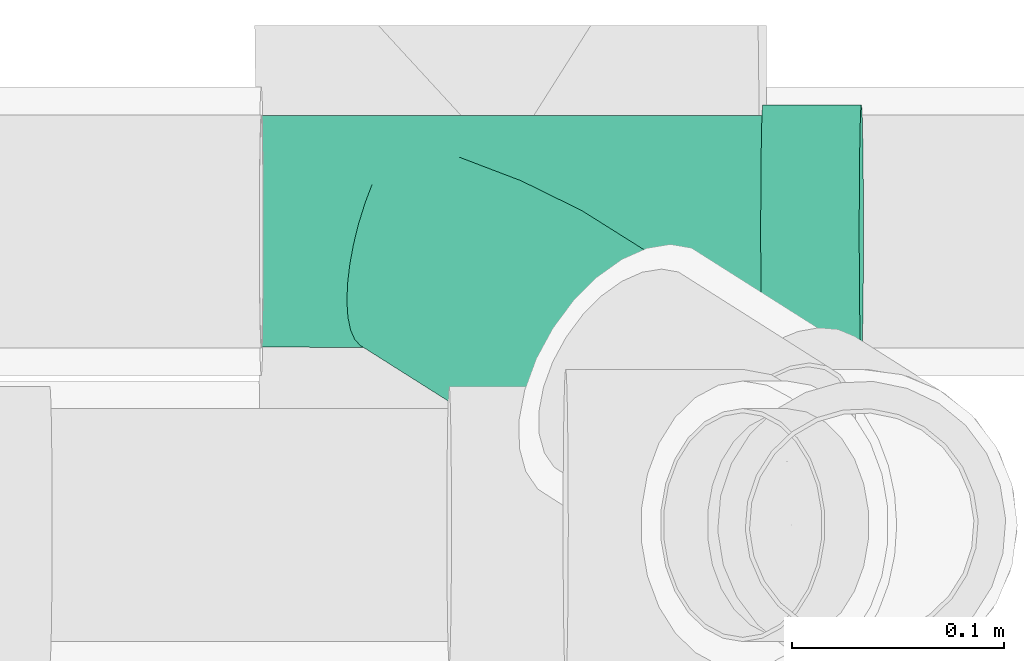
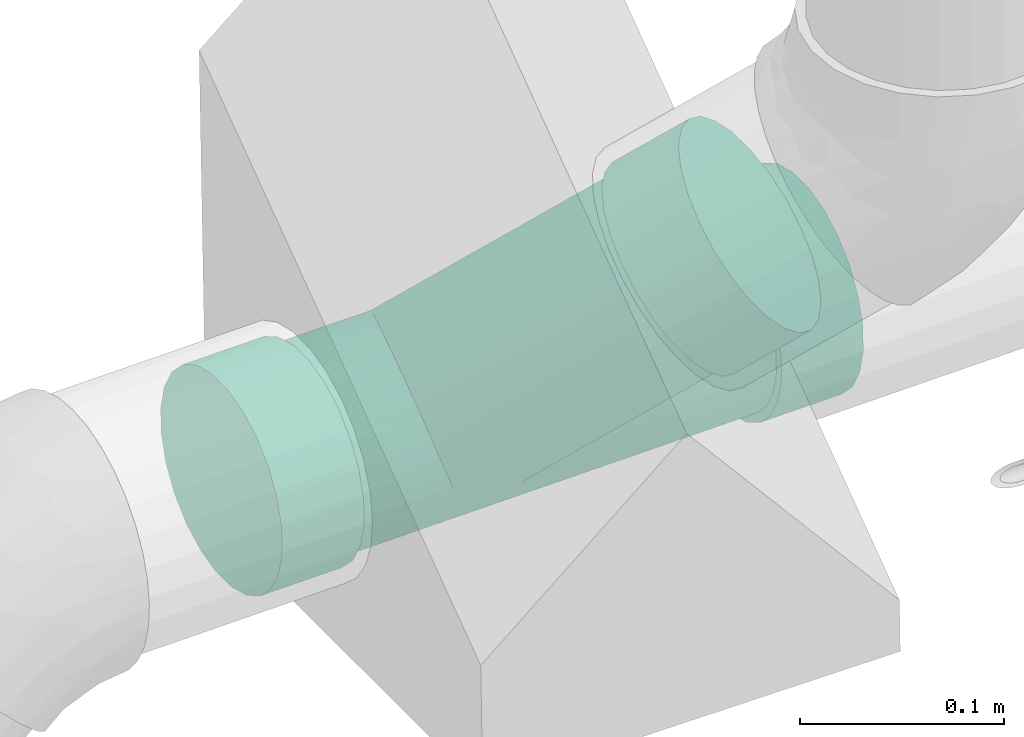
# One storey, part 114 of 156: 1 flow fitting.
"""IFC2X3 building model written with IfcOpenShell, lengths in millimetres."""

from ifc_helpers import new_model, entity, si_unit, converted_unit, derived_unit, direction, frame, origin_with_axes, place, context, subcontext, project, spatial, open_shell, surface_model, source, transform, mapped, type_object, element, save


model = new_model("IFC2X3")

# Units and contexts
model_context = context("Model", 3, precision=0.01, world=frame((0.0, 4.29681676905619e-09, 0.0)), true_north=direction((4.01073788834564e-13, 1.0)))
plan_context = context("Plan", 3, precision=0.01, world=frame((0.0, 4.29681676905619e-09, 0.0)), true_north=direction((4.01073788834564e-13, 1.0)))
body_context = subcontext(model_context, "Body", "Model", "MODEL_VIEW")
ifc_project = project(units=[converted_unit("PLANEANGLEUNIT", "DEGREE", entity("IfcPositiveLengthMeasure", 0.0174532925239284), si_unit("PLANEANGLEUNIT", "RADIAN"), dimensions=[0, 0, 0, 0, 0, 0, 0]), si_unit("AREAUNIT", "SQUARE_METRE"), si_unit("LENGTHUNIT", "METRE", prefix="MILLI"), si_unit("MASSUNIT", "GRAM", prefix="KILO"), si_unit("POWERUNIT", "WATT"), si_unit("PRESSUREUNIT", "PASCAL", prefix="KILO"), si_unit("FORCEUNIT", "NEWTON", prefix="KILO"), si_unit("ELECTRICVOLTAGEUNIT", "VOLT"), si_unit("ELECTRICCURRENTUNIT", "AMPERE"), si_unit("THERMODYNAMICTEMPERATUREUNIT", "DEGREE_CELSIUS"), si_unit("TIMEUNIT", "SECOND"), si_unit("VOLUMEUNIT", "CUBIC_METRE"), derived_unit("LINEARVELOCITYUNIT", [(si_unit("LENGTHUNIT", "METRE"), 1), (si_unit("TIMEUNIT", "SECOND"), -1)]), derived_unit("VOLUMETRICFLOWRATEUNIT", [(si_unit("VOLUMEUNIT", "CUBIC_METRE"), 1), (si_unit("TIMEUNIT", "SECOND"), -1)]), derived_unit("THERMALTRANSMITTANCEUNIT", [(si_unit("POWERUNIT", "WATT"), 1), (si_unit("THERMODYNAMICTEMPERATUREUNIT", "KELVIN"), -1), (si_unit("AREAUNIT", "SQUARE_METRE"), -1)]), derived_unit("SOUNDPRESSUREUNIT", [(si_unit("PRESSUREUNIT", "PASCAL"), 1)])], contexts=[model_context, plan_context])

# Site, building, storey
site_placement = place(None, frame((0.0, -4.29681676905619e-09, 0.0), z_axis=(0.0, 0.0, 1.0), x_axis=(1.0, 0.0, 0.0)))
site = spatial("IfcSite", under=ifc_project, at=site_placement, CompositionType="ELEMENT")
building_placement = place(site_placement, frame((0.0, 4.29681676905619e-09, 0.0), z_axis=(0.0, 0.0, 1.0), x_axis=(1.0, 0.0, 0.0)))
building = spatial("IfcBuilding", under=site, at=building_placement, Name="mc-building", CompositionType="ELEMENT")
storey_placement = place(building_placement, frame((0.0, 0.0, 205200.0), z_axis=(0.0, 0.0, 1.0), x_axis=(1.0, 0.0, 0.0)))
storey = spatial("IfcBuildingStorey", under=building, at=storey_placement, Name="Nivå D + 1,2 m", CompositionType="ELEMENT", Elevation=205200.0)

# Flow fitting
pipe_fitting_type = type_object("IfcPipeFittingType", Name="magi_sewer_tee_wye_NOR", PredefinedType="JUNCTION")
shared_shape = source(origin_with_axes(), body_context, "Body", "SurfaceModel", [
    surface_model("IfcShellBasedSurfaceModel", [(218.8426, 30.0, -51.96152), (218.8426, -42.42641, -42.42641), (218.8426, 15.52914, -57.95555), (218.8426, 51.96152, -30.0), (218.8426, 42.42641, -42.42641), (218.8426, 57.95555, -15.52914), (218.8426, 60.0, 0.0), (218.8426, 0.0, -60.0), (218.8426, -30.0, -51.96152), (218.8426, -15.52914, -57.95555), (218.8426, 57.95555, 15.52914), (218.8426, -51.96152, -30.0), (218.8426, -60.0, 0.0), (218.8426, -57.95555, -15.52914), (218.8426, 51.96152, 30.0), (218.8426, 42.42641, 42.42641), (218.8426, 15.52914, 57.95555), (218.8426, 0.0, 60.0), (218.8426, 30.0, 51.96152), (218.8426, -51.96152, 30.0), (218.8426, -57.95555, 15.52914), (218.8426, -30.0, 51.96152), (218.8426, -42.42641, 42.42641), (218.8426, -15.52914, 57.95555), (172.34261, 42.42641, 42.42641), (172.34261, 0.0, 60.0), (172.34261, 15.52914, 57.95555), (172.34261, 30.0, 51.96152), (172.34261, 51.96152, 30.0), (172.34261, 57.95555, 15.52914), (172.34261, -60.0, 0.0), (172.34261, -30.0, 51.96152), (172.34261, -51.96152, 30.0), (172.34261, -42.42641, 42.42641), (172.34261, -15.52914, 57.95555), (172.34261, -57.95555, 15.52914), (172.34261, -51.96152, -30.0), (172.34261, -42.42641, -42.42641), (172.34261, 57.95555, -15.52914), (172.34261, 42.42641, -42.42641), (172.34261, 51.96152, -30.0), (172.34261, 30.0, -51.96152), (172.34261, 15.52914, -57.95555), (172.34261, -57.95555, -15.52914), (172.34261, -30.0, -51.96152), (172.34261, 0.0, -60.0), (172.34261, -15.52914, -57.95555), (172.34261, 60.0, 0.0), (129.39452, -90.35113, -51.96152), (119.00554, -100.42462, -57.95555), (107.85681, -111.23479, -60.0), (70.55239, -147.40634, -30.0), (145.16122, -75.06324, -30.0), (138.31573, -81.70085, -42.42641), (150.93223, -69.46748, 0.0), (77.39788, -140.76873, -42.42641), (86.3191, -132.11844, -51.96152), (96.70807, -122.04497, -57.95555), (66.24914, -151.57891, -15.52914), (70.55239, -147.40634, 30.0), (64.78138, -153.00209, 0.0), (66.24914, -151.57891, 15.52914), (149.46447, -70.89067, -15.52914), (149.46447, -70.89067, 15.52914), (119.00554, -100.42462, 57.95555), (145.16122, -75.06324, 30.0), (138.31573, -81.70085, 42.42641), (129.39452, -90.35113, 51.96152), (107.85681, -111.23479, 60.0), (77.39788, -140.76873, 42.42641), (96.70807, -122.04497, 57.95555), (86.3191, -132.11844, 51.96152), (140.22647, -144.61824, -60.0), (151.37521, -133.80807, -57.95555), (161.76418, -123.73459, -51.96152), (170.68538, -115.0843, -42.42641), (177.53088, -108.4467, -30.0), (181.83414, -104.27412, -15.52914), (102.92206, -180.7898, -30.0), (118.68876, -165.50189, -51.96152), (109.76755, -174.1522, -42.42641), (129.07773, -155.42841, -57.95555), (97.15105, -186.38555, 0.0), (98.61881, -184.96237, -15.52914), (177.53088, -108.4467, 30.0), (181.83414, -104.27412, 15.52914), (161.76418, -123.73459, 51.96152), (140.22647, -144.61824, 60.0), (170.68538, -115.0843, 42.42641), (151.37521, -133.80807, 57.95555), (102.92206, -180.7898, 30.0), (98.61881, -184.96237, 15.52914), (109.76755, -174.1522, 42.42641), (129.07773, -155.42841, 57.95555), (118.68876, -165.50189, 51.96152), (183.30189, -102.85094, 0.0), (-110.9858, -30.0, -51.96152), (-110.9858, 42.42641, -42.42641), (-110.9858, -15.52914, -57.95555), (-110.9858, -51.96152, -30.0), (-110.9858, -42.42641, -42.42641), (-110.9858, -57.95555, -15.52914), (-110.9858, -60.0, 0.0), (-110.9858, 0.0, -60.0), (-110.9858, 30.0, -51.96152), (-110.9858, 15.52914, -57.95555), (-110.9858, -57.95555, 15.52914), (-110.9858, 51.96152, -30.0), (-110.9858, 60.0, 0.0), (-110.9858, 57.95555, -15.52914), (-110.9858, -51.96152, 30.0), (-110.9858, -42.42641, 42.42641), (-110.9858, -15.52914, 57.95555), (-110.9858, 0.0, 60.0), (-110.9858, -30.0, 51.96152), (-110.9858, 51.96152, 30.0), (-110.9858, 57.95555, 15.52914), (-110.9858, 30.0, 51.96152), (-110.9858, 42.42641, 42.42641), (-110.9858, 15.52914, 57.95555), (-64.4858, -42.42641, 42.42641), (-64.4858, 0.0, 60.0), (-64.4858, -15.52914, 57.95555), (-64.4858, -30.0, 51.96152), (-64.4858, -51.96152, 30.0), (-64.4858, -57.95555, 15.52914), (-64.4858, 60.0, 0.0), (-64.4858, 30.0, 51.96152), (-64.4858, 51.96152, 30.0), (-64.4858, 42.42641, 42.42641), (-64.4858, 15.52914, 57.95555), (-64.4858, 57.95555, 15.52914), (-64.4858, 51.96152, -30.0), (-64.4858, 42.42641, -42.42641), (-64.4858, -57.95555, -15.52914), (-64.4858, -42.42641, -42.42641), (-64.4858, -51.96152, -30.0), (-64.4858, -30.0, -51.96152), (-64.4858, -15.52914, -57.95555), (-64.4858, 57.95555, -15.52914), (-64.4858, 30.0, -51.96152), (-64.4858, 0.0, -60.0), (-64.4858, 15.52914, -57.95555), (-64.4858, -60.0, 0.0), (172.34261, 0.0, -55.0), (172.34261, 14.23505, -53.12592), (172.34261, 27.5, -47.63139), (172.34261, 38.89087, -38.89087), (172.34261, 47.63139, -27.5), (172.34261, -55.0, 0.0), (172.34261, -27.5, -47.63139), (172.34261, 53.12592, -14.23505), (172.34261, -14.23505, -53.12592), (172.34261, -47.63139, -27.5), (172.34261, -38.89087, -38.89087), (172.34261, -53.12592, -14.23505), (172.34261, -47.63139, 27.5), (172.34261, 55.0, 0.0), (172.34261, 47.63139, 27.5), (172.34261, 27.5, 47.63139), (172.34261, 38.89087, 38.89087), (172.34261, 14.23505, 53.12592), (172.34261, 0.0, 55.0), (172.34261, -53.12592, 14.23505), (172.34261, -27.5, 47.63139), (172.34261, -38.89087, 38.89087), (172.34261, -14.23505, 53.12592), (172.34261, 53.12592, 14.23505), (-64.4858, 0.0, 55.0), (-64.4858, 14.23505, 53.12592), (-64.4858, 27.5, 47.63139), (-64.4858, -14.23505, 53.12592), (-64.4858, 47.63139, 27.5), (-64.4858, 38.89087, 38.89087), (-64.4858, -27.5, -47.63139), (-64.4858, -47.63139, 27.5), (-64.4858, -38.89087, 38.89087), (-64.4858, -27.5, 47.63139), (-64.4858, -55.0, 0.0), (-64.4858, -53.12592, 14.23505), (-64.4858, -47.63139, -27.5), (-64.4858, 55.0, 0.0), (-64.4858, 53.12592, 14.23505), (-64.4858, 53.12592, -14.23505), (-64.4858, 47.63139, -27.5), (-64.4858, 27.5, -47.63139), (-64.4858, 0.0, -55.0), (-64.4858, 38.89087, -38.89087), (-64.4858, 14.23505, -53.12592), (-64.4858, -38.89087, -38.89087), (-64.4858, -53.12592, -14.23505), (-64.4858, -14.23505, -53.12592), (-22.32863, -52.75224, -14.74742), (-64.4858, -53.59444, -10.67629), (-64.4858, -54.06296, -7.11752), (-23.08762, -54.54536, -4.97979), (-22.89518, -54.09073, -9.95958), (-19.94063, -47.11048, -28.38314), (-20.85136, -49.26211, -23.9592), (-17.51792, -41.38674, -36.22344), (-64.4858, -43.26114, -33.19544), (-64.4858, -33.19544, -43.26114), (-11.28055, -26.65073, -48.11173), (-18.72927, -44.24861, -32.30329), (-16.05685, -37.93492, -39.53551), (-64.4858, -50.37866, -20.86752), (-64.4858, -49.00503, -24.18376), (-14.59579, -34.4831, -42.84758), (-21.76209, -51.41374, -19.53527), (125.00556, -52.91156, -15.01221), (114.30843, -48.38375, -26.15364), (129.93957, -55.0, 0.0), (101.50151, -42.96292, -34.3393), (-3.88454, -9.17736, -54.22892), (-64.4858, -7.11752, -54.06296), (73.58307, -31.14578, -45.33145), (59.10285, -25.01668, -48.98128), (87.78304, -37.15625, -40.55136), (172.34261, -43.26114, -33.19544), (-64.4858, -20.86752, -50.37866), (-7.67672, -18.13653, -51.92366), (0.0, 0.0, -55.0), (-23.28005, -55.0, 0.0), (29.68456, -12.56469, -53.54557), (14.85695, -6.28856, -54.63931), (44.44868, -18.81396, -51.68206), (-23.08762, -54.54536, 4.97979), (-64.4858, -54.06296, 7.11752), (-64.4858, -7.11752, 54.06296), (-3.88454, -9.17736, 54.22892), (0.0, 0.0, 55.0), (-7.67672, -18.13653, 51.92366), (-64.4858, -20.86752, 50.37866), (-11.28055, -26.65073, 48.11173), (-18.72927, -44.24861, 32.30329), (-64.4858, -43.26114, 33.19544), (-20.85136, -49.26211, 23.9592), (-64.4858, -49.00503, 24.18376), (29.68456, -12.56469, 53.54557), (59.10285, -25.01668, 48.98128), (-64.4858, -33.19544, 43.26114), (-14.59579, -34.4831, 42.84758), (-19.94063, -47.11048, 28.38314), (-16.05685, -37.93492, 39.53551), (-17.51792, -41.38674, 36.22344), (87.78304, -37.15625, 40.55136), (101.04573, -42.77, 33.3525), (-64.4858, -50.37866, 20.86752), (172.34261, -43.26114, 33.19544), (-22.32863, -52.75224, 14.74742), (-21.76209, -51.41374, 19.53527), (-22.89518, -54.09073, 9.95958), (114.30843, -48.38375, 26.15364), (122.124, -51.69188, 13.07682), (-64.4858, -53.59444, 10.67629), (107.85681, -111.23479, -55.0), (118.07649, -101.32546, -53.12592), (127.59971, -92.09144, -47.63139), (69.71645, -148.2169, -14.23505), (135.77749, -84.162, -38.89087), (142.05251, -78.07754, -27.5), (145.99717, -74.25268, -14.23505), (69.71645, -148.2169, 14.23505), (97.63713, -121.14411, -53.12592), (79.93613, -138.30757, -38.89087), (88.1139, -130.37814, -47.63139), (73.6611, -144.39204, -27.5), (68.371, -149.52149, 0.0), (145.99717, -74.25268, 14.23505), (142.05251, -78.07754, 27.5), (135.77749, -84.162, 38.89087), (127.59971, -92.09144, 47.63139), (118.07649, -101.32546, 53.12592), (79.93613, -138.30757, 38.89087), (73.6611, -144.39204, 27.5), (88.1139, -130.37814, 47.63139), (97.63713, -121.14411, 53.12592), (107.85681, -111.23479, 55.0), (147.34261, -72.94809, 0.0), (127.47256, -53.95578, -7.5061), (146.66989, -73.60039, -7.11752), (138.915, -81.11978, -33.19544)], [open_shell([[[0, 1, 2]], [[3, 0, 4]], [[5, 6, 0]], [[5, 0, 3]], [[1, 0, 6]], [[7, 8, 9]], [[8, 7, 1]], [[2, 1, 7]], [[1, 10, 11]], [[11, 12, 13]], [[10, 1, 6]], [[10, 14, 15]], [[12, 10, 15]], [[16, 17, 15]], [[16, 15, 18]], [[19, 15, 17]], [[12, 19, 20]], [[12, 15, 19]], [[19, 21, 22]], [[19, 17, 21]], [[23, 21, 17]], [[10, 12, 11]], [[24, 25, 26]], [[24, 26, 27]], [[24, 28, 29]], [[25, 24, 30]], [[30, 24, 29]], [[31, 32, 33]], [[31, 34, 25]], [[32, 30, 35]], [[31, 25, 32]], [[25, 30, 32]], [[29, 36, 30]], [[37, 29, 38]], [[39, 38, 40]], [[41, 42, 38]], [[41, 38, 39]], [[37, 38, 42]], [[37, 36, 29]], [[43, 30, 36]], [[44, 45, 46]], [[45, 44, 37]], [[45, 37, 42]], [[47, 38, 29]], [[43, 13, 30]], [[36, 11, 43]], [[8, 37, 44]], [[36, 37, 1]], [[9, 44, 46]], [[43, 11, 13]], [[13, 12, 30]], [[9, 8, 44]], [[1, 37, 8]], [[1, 11, 36]], [[7, 9, 46]], [[46, 45, 7]], [[2, 42, 41]], [[39, 0, 41]], [[3, 40, 38]], [[39, 40, 4]], [[5, 38, 47]], [[42, 2, 45]], [[41, 0, 2]], [[45, 2, 7]], [[39, 4, 0]], [[40, 3, 4]], [[5, 3, 38]], [[47, 6, 5]], [[29, 10, 47]], [[28, 14, 29]], [[18, 24, 27]], [[28, 24, 15]], [[16, 27, 26]], [[29, 14, 10]], [[10, 6, 47]], [[18, 27, 16]], [[15, 24, 18]], [[15, 14, 28]], [[16, 25, 17]], [[16, 26, 25]], [[23, 34, 31]], [[33, 21, 31]], [[19, 32, 35]], [[33, 32, 22]], [[20, 35, 30]], [[34, 23, 25]], [[31, 21, 23]], [[25, 23, 17]], [[33, 22, 21]], [[32, 19, 22]], [[20, 19, 35]], [[30, 12, 20]], [[48, 49, 50]], [[48, 50, 51]], [[52, 53, 54]], [[53, 48, 51]], [[53, 51, 54]], [[55, 51, 56]], [[50, 57, 56]], [[50, 56, 51]], [[58, 59, 51]], [[60, 61, 58]], [[54, 62, 52]], [[63, 54, 64]], [[65, 63, 66]], [[63, 64, 67]], [[66, 63, 67]], [[68, 64, 54]], [[59, 69, 54]], [[59, 58, 61]], [[70, 68, 71]], [[54, 69, 71]], [[68, 54, 71]], [[54, 51, 59]], [[72, 73, 74]], [[72, 74, 75]], [[75, 76, 77]], [[75, 77, 72]], [[72, 77, 78]], [[79, 78, 80]], [[79, 81, 72]], [[78, 82, 83]], [[79, 72, 78]], [[77, 82, 78]], [[77, 84, 82]], [[85, 84, 77]], [[82, 84, 86]], [[86, 87, 82]], [[86, 84, 88]], [[86, 89, 87]], [[82, 90, 91]], [[92, 90, 82]], [[92, 93, 94]], [[93, 92, 87]], [[87, 92, 82]], [[77, 95, 85]], [[91, 60, 82]], [[90, 61, 91]], [[69, 92, 94]], [[90, 92, 59]], [[71, 94, 93]], [[90, 59, 61]], [[61, 60, 91]], [[70, 87, 68]], [[70, 71, 93]], [[69, 94, 71]], [[69, 59, 92]], [[87, 70, 93]], [[67, 89, 86]], [[88, 66, 86]], [[63, 84, 85]], [[88, 84, 65]], [[54, 85, 95]], [[89, 64, 68]], [[89, 67, 64]], [[86, 66, 67]], [[88, 65, 66]], [[63, 65, 84]], [[85, 54, 63]], [[89, 68, 87]], [[77, 54, 95]], [[76, 62, 77]], [[53, 75, 74]], [[76, 75, 52]], [[48, 74, 73]], [[76, 52, 62]], [[62, 54, 77]], [[49, 72, 50]], [[49, 48, 73]], [[53, 74, 48]], [[53, 52, 75]], [[72, 49, 73]], [[56, 81, 79]], [[80, 55, 79]], [[58, 78, 83]], [[80, 78, 51]], [[60, 83, 82]], [[57, 50, 81]], [[57, 81, 56]], [[79, 55, 56]], [[80, 51, 55]], [[58, 51, 78]], [[83, 60, 58]], [[81, 50, 72]], [[96, 97, 98]], [[99, 96, 100]], [[101, 102, 96]], [[101, 96, 99]], [[97, 96, 102]], [[103, 104, 105]], [[104, 103, 97]], [[98, 97, 103]], [[97, 106, 107]], [[107, 108, 109]], [[106, 97, 102]], [[106, 110, 111]], [[108, 106, 111]], [[112, 113, 111]], [[112, 111, 114]], [[115, 111, 113]], [[108, 115, 116]], [[108, 111, 115]], [[115, 117, 118]], [[115, 113, 117]], [[119, 117, 113]], [[106, 108, 107]], [[120, 121, 122]], [[120, 122, 123]], [[120, 124, 125]], [[121, 120, 126]], [[126, 120, 125]], [[127, 128, 129]], [[127, 130, 121]], [[128, 126, 131]], [[127, 121, 128]], [[121, 126, 128]], [[125, 132, 126]], [[133, 125, 134]], [[135, 134, 136]], [[137, 138, 134]], [[137, 134, 135]], [[133, 134, 138]], [[133, 132, 125]], [[139, 126, 132]], [[140, 141, 142]], [[141, 140, 133]], [[141, 133, 138]], [[143, 134, 125]], [[139, 109, 126]], [[132, 107, 139]], [[104, 133, 140]], [[132, 133, 97]], [[105, 140, 142]], [[139, 107, 109]], [[109, 108, 126]], [[105, 104, 140]], [[97, 133, 104]], [[97, 107, 132]], [[103, 105, 142]], [[142, 141, 103]], [[98, 138, 137]], [[135, 96, 137]], [[99, 136, 134]], [[135, 136, 100]], [[101, 134, 143]], [[138, 98, 141]], [[137, 96, 98]], [[141, 98, 103]], [[135, 100, 96]], [[136, 99, 100]], [[101, 99, 134]], [[143, 102, 101]], [[125, 106, 143]], [[124, 110, 125]], [[114, 120, 123]], [[124, 120, 111]], [[112, 123, 122]], [[125, 110, 106]], [[106, 102, 143]], [[114, 123, 112]], [[111, 120, 114]], [[111, 110, 124]], [[112, 121, 113]], [[112, 122, 121]], [[119, 130, 127]], [[129, 117, 127]], [[115, 128, 131]], [[129, 128, 118]], [[116, 131, 126]], [[130, 119, 121]], [[127, 117, 119]], [[121, 119, 113]], [[129, 118, 117]], [[128, 115, 118]], [[116, 115, 131]], [[126, 108, 116]], [[144, 145, 146]], [[147, 144, 146]], [[148, 149, 150]], [[148, 150, 147]], [[148, 151, 149]], [[144, 150, 152]], [[144, 147, 150]], [[150, 153, 154]], [[153, 150, 149]], [[149, 155, 153]], [[156, 151, 157]], [[156, 157, 158]], [[159, 158, 160]], [[159, 161, 162]], [[159, 162, 158]], [[156, 158, 162]], [[149, 156, 163]], [[151, 156, 149]], [[162, 164, 165]], [[165, 156, 162]], [[164, 162, 166]], [[157, 167, 158]], [[168, 169, 170]], [[171, 168, 170]], [[171, 170, 172]], [[172, 170, 173]], [[174, 175, 172]], [[171, 176, 177]], [[171, 172, 176]], [[175, 178, 179]], [[176, 172, 175]], [[175, 180, 178]], [[181, 172, 182]], [[181, 183, 184]], [[181, 184, 185]], [[181, 185, 186]], [[185, 184, 187]], [[186, 185, 188]], [[180, 174, 189]], [[190, 178, 180]], [[174, 186, 191]], [[180, 175, 174]], [[186, 174, 181]], [[172, 181, 174]], [[190, 192, 193]], [[178, 194, 195]], [[196, 193, 192]], [[197, 198, 180]], [[199, 200, 189]], [[201, 174, 202]], [[194, 196, 195]], [[180, 200, 203]], [[204, 199, 189]], [[198, 205, 206]], [[202, 207, 201]], [[198, 208, 205]], [[196, 194, 193]], [[209, 210, 155]], [[211, 209, 155]], [[211, 155, 149]], [[155, 210, 153]], [[210, 212, 153]], [[213, 191, 214]], [[200, 199, 203]], [[150, 215, 216]], [[217, 215, 154]], [[217, 154, 212]], [[154, 215, 150]], [[212, 218, 153]], [[204, 201, 207]], [[180, 198, 206]], [[202, 219, 220]], [[219, 202, 174]], [[186, 221, 214]], [[190, 208, 192]], [[213, 220, 191]], [[213, 214, 221]], [[212, 154, 218]], [[186, 188, 221]], [[180, 203, 197]], [[147, 187, 184]], [[148, 184, 183]], [[145, 188, 185]], [[146, 185, 187]], [[145, 221, 188]], [[151, 183, 181]], [[178, 195, 222]], [[208, 190, 205]], [[223, 224, 152]], [[225, 223, 152]], [[225, 152, 216]], [[152, 224, 144]], [[216, 152, 150]], [[221, 144, 224]], [[201, 204, 189]], [[145, 144, 221]], [[146, 145, 185]], [[146, 187, 147]], [[148, 147, 184]], [[151, 148, 183]], [[181, 157, 151]], [[220, 219, 191]], [[173, 158, 172]], [[178, 226, 227]], [[172, 158, 182]], [[167, 181, 182]], [[160, 173, 170]], [[228, 171, 229]], [[169, 168, 230]], [[229, 171, 231]], [[231, 171, 232]], [[170, 169, 159]], [[177, 233, 232]], [[228, 230, 168]], [[175, 234, 235]], [[160, 158, 173]], [[236, 175, 237]], [[159, 160, 170]], [[167, 182, 158]], [[157, 181, 167]], [[230, 228, 229]], [[230, 238, 162]], [[230, 162, 161]], [[162, 238, 166]], [[166, 238, 239]], [[161, 159, 169]], [[230, 161, 169]], [[233, 240, 241]], [[242, 234, 175]], [[176, 243, 240]], [[235, 234, 244]], [[165, 245, 246]], [[240, 243, 241]], [[236, 237, 247]], [[222, 226, 178]], [[246, 156, 248]], [[249, 250, 179]], [[251, 227, 226]], [[163, 252, 253]], [[179, 250, 247]], [[247, 250, 236]], [[175, 236, 242]], [[233, 177, 240]], [[239, 245, 164]], [[251, 254, 227]], [[164, 245, 165]], [[239, 164, 166]], [[254, 249, 179]], [[244, 176, 235]], [[165, 246, 248]], [[156, 246, 252]], [[176, 244, 243]], [[249, 254, 251]], [[252, 163, 156]], [[253, 149, 163]], [[253, 211, 149]], [[231, 232, 233]], [[255, 256, 257]], [[258, 255, 257]], [[259, 260, 261]], [[257, 259, 262]], [[262, 258, 257]], [[263, 264, 265]], [[263, 255, 264]], [[264, 258, 266]], [[255, 258, 264]], [[258, 262, 267]], [[261, 268, 259]], [[268, 269, 259]], [[259, 269, 262]], [[270, 271, 272]], [[269, 270, 262]], [[272, 262, 270]], [[262, 273, 274]], [[273, 262, 275]], [[262, 276, 275]], [[276, 262, 277]], [[262, 272, 277]], [[261, 278, 268]], [[251, 222, 267]], [[262, 251, 267]], [[273, 275, 241]], [[244, 274, 273]], [[250, 262, 274]], [[231, 275, 276]], [[250, 251, 262]], [[242, 250, 274]], [[241, 244, 273]], [[231, 233, 275]], [[241, 275, 233]], [[242, 274, 244]], [[278, 253, 268]], [[276, 229, 231]], [[238, 277, 272]], [[271, 239, 272]], [[269, 268, 252]], [[252, 270, 269]], [[245, 271, 270]], [[253, 278, 211]], [[277, 230, 229]], [[277, 238, 230]], [[253, 252, 268]], [[238, 272, 239]], [[252, 245, 270]], [[271, 245, 239]], [[277, 229, 276]], [[261, 279, 280]], [[210, 281, 212]], [[278, 280, 211]], [[261, 260, 209]], [[259, 257, 217]], [[212, 281, 259]], [[209, 260, 210]], [[216, 257, 256]], [[210, 260, 281]], [[215, 217, 257]], [[212, 259, 217]], [[225, 216, 256]], [[255, 224, 223]], [[225, 256, 223]], [[215, 257, 216]], [[261, 209, 279]], [[223, 256, 255]], [[265, 220, 263]], [[263, 213, 255]], [[207, 265, 264]], [[196, 258, 267]], [[264, 266, 199]], [[258, 208, 266]], [[267, 222, 196]], [[202, 220, 265]], [[213, 221, 255]], [[220, 213, 263]], [[211, 280, 279]], [[196, 208, 258]], [[199, 207, 264]], [[197, 199, 266]], [[208, 197, 266]], [[202, 265, 207]], [[255, 221, 224]]])]),
])
flow_fitting_placement = place(storey_placement, frame((324799.87709, 462724.75736, 4165.63569), z_axis=(-0.0100899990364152, 0.795836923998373, 0.605426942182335), x_axis=(0.999861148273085, -1.89439439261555e-07, 0.0166638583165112)))
element("IfcFlowFitting", 1, at=flow_fitting_placement, inside=storey, type_object=pipe_fitting_type, Name="magi_sewer_tee_wye_NOR", context=body_context, shape_type="MappedRepresentation", body=[
    mapped(shared_shape, transform((0.0, 0.0, 0.0), scale=1.0)),
])

save(model, "model.ifc")
